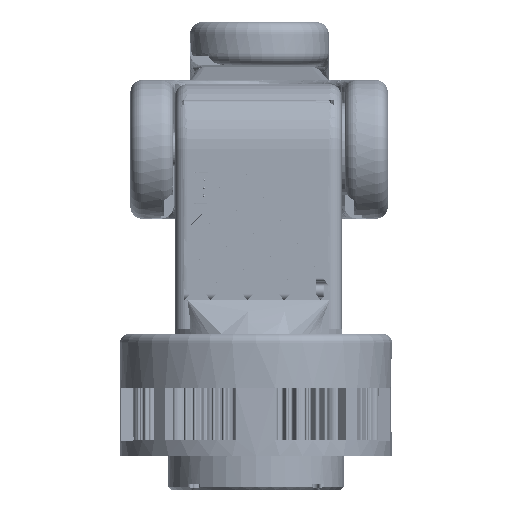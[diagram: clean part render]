
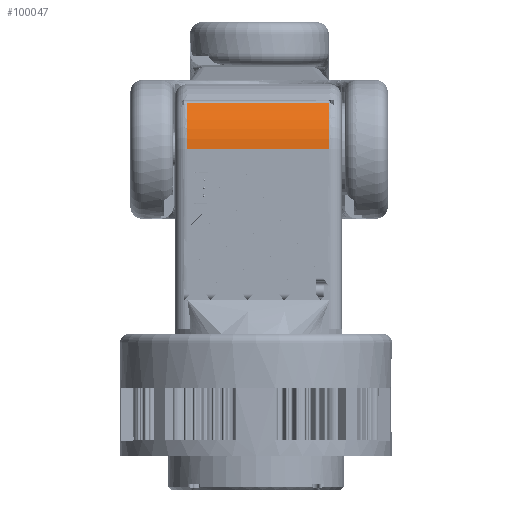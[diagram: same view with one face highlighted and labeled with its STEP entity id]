
A CAD part, top view. The second image highlights one B-rep face of the part: STEP entity #100047.
In plain terms, the highlighted cylindrical face has radius 21.13 mm (diameter 42.26 mm), a partial arc.
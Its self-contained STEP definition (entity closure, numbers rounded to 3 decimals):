
#5936=CYLINDRICAL_SURFACE('',#108645,21.13);
#10917=LINE('',#225106,#18085);
#10924=LINE('',#225243,#18092);
#18085=VECTOR('',#127650,10.);
#18092=VECTOR('',#127737,10.);
#27297=FACE_OUTER_BOUND('',#33301,.T.);
#33301=EDGE_LOOP('',(#81699,#81700,#81701,#81702));
#39063=CIRCLE('',#108639,21.13);
#39067=CIRCLE('',#108646,21.13);
#46028=VERTEX_POINT('',#225076);
#46030=VERTEX_POINT('',#225091);
#46046=VERTEX_POINT('',#225230);
#46048=VERTEX_POINT('',#225241);
#58700=EDGE_CURVE('',#46028,#46030,#10917,.T.);
#58734=EDGE_CURVE('',#46046,#46030,#39063,.T.);
#58739=EDGE_CURVE('',#46028,#46048,#39067,.T.);
#58740=EDGE_CURVE('',#46046,#46048,#10924,.T.);
#81699=ORIENTED_EDGE('',*,*,#58739,.F.);
#81700=ORIENTED_EDGE('',*,*,#58700,.T.);
#81701=ORIENTED_EDGE('',*,*,#58734,.F.);
#81702=ORIENTED_EDGE('',*,*,#58740,.T.);
#100047=ADVANCED_FACE('',(#27297),#5936,.T.);
#108639=AXIS2_PLACEMENT_3D('',#225232,#127720,#127721);
#108645=AXIS2_PLACEMENT_3D('',#225240,#127733,#127734);
#108646=AXIS2_PLACEMENT_3D('',#225242,#127735,#127736);
#127650=DIRECTION('',(-1.,0.,0.));
#127720=DIRECTION('center_axis',(-1.,0.,0.));
#127721=DIRECTION('ref_axis',(0.,1.,0.));
#127733=DIRECTION('center_axis',(-1.,0.,0.));
#127734=DIRECTION('ref_axis',(0.,1.,0.));
#127735=DIRECTION('center_axis',(1.,0.,0.));
#127736=DIRECTION('ref_axis',(0.,1.,0.));
#127737=DIRECTION('',(1.,0.,0.));
#225076=CARTESIAN_POINT('',(23.8,114.59,14.884));
#225091=CARTESIAN_POINT('',(-22.3,114.59,14.884));
#225106=CARTESIAN_POINT('',(25.3,114.59,14.884));
#225230=CARTESIAN_POINT('',(-22.3,99.63,21.093));
#225232=CARTESIAN_POINT('Origin',(-22.3,99.63,-0.037));
#225240=CARTESIAN_POINT('Origin',(31.8,99.63,-0.037));
#225241=CARTESIAN_POINT('',(23.8,99.63,21.093));
#225242=CARTESIAN_POINT('Origin',(23.8,99.63,-0.037));
#225243=CARTESIAN_POINT('',(31.8,99.63,21.093));
